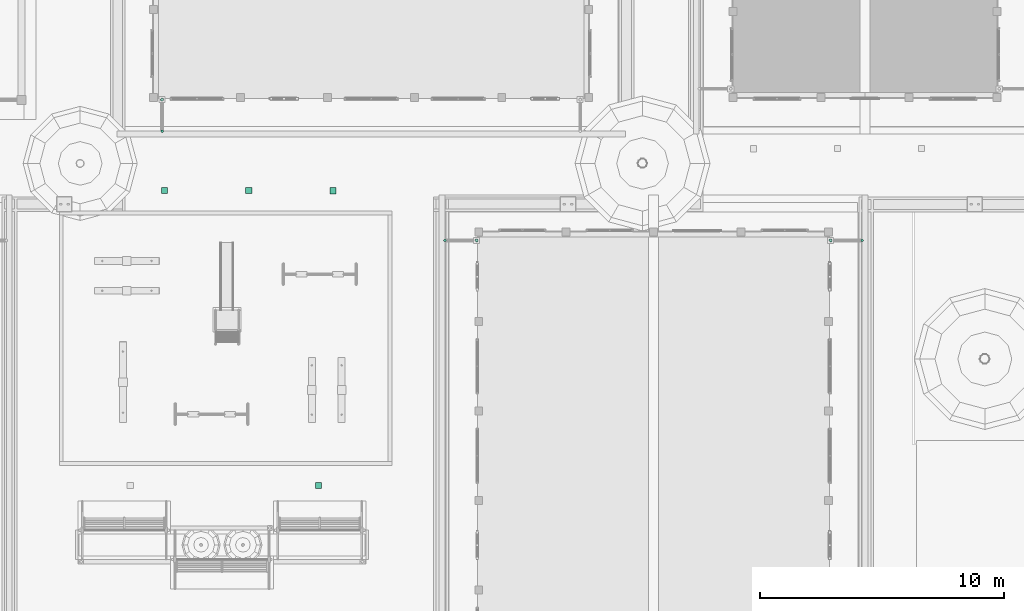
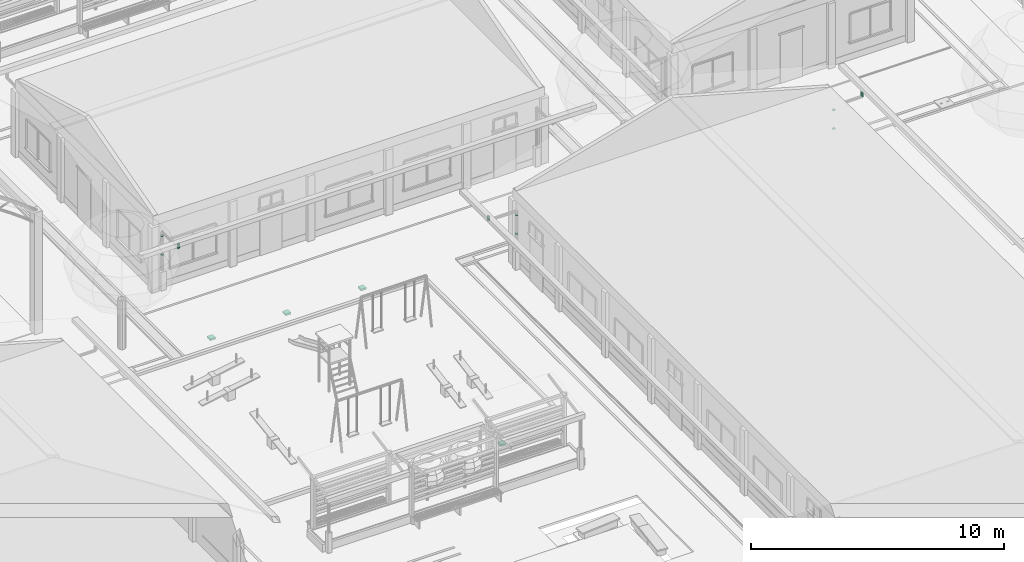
# One storey, part 126 of 177: 9 pipe segments, 4 waste terminals.
"""IFC4 building model written with IfcOpenShell, lengths in metres."""

from ifc_helpers import new_model, si_unit, origin, origin_with_axes, place, context, subcontext, project, spatial, triangles, element, save


model = new_model("IFC4")

# Units and contexts
model_context = context("Model", 3, precision=1e-05, world=origin_with_axes())
body_context = subcontext(model_context, "Body", "Model", "MODEL_VIEW")
ifc_project = project(units=[si_unit("LENGTHUNIT", "METRE"), si_unit("AREAUNIT", "SQUARE_METRE"), si_unit("VOLUMEUNIT", "CUBIC_METRE"), si_unit("PLANEANGLEUNIT", "RADIAN")], contexts=[model_context])

# Site, building, storey
site_placement = place(None, origin_with_axes())
site = spatial("IfcSite", under=ifc_project, at=site_placement, Name="Predio Los Mangos - Morales, San Martín", CompositionType="ELEMENT")
building_placement = place(site_placement, origin())
building = spatial("IfcBuilding", under=site, at=building_placement, Name="Hogar de Refugio Temporal", CompositionType="ELEMENT")
storey_placement = place(building_placement, origin())
storey = spatial("IfcBuildingStorey", under=building, at=storey_placement, Name="NIVEL 1 (NPT +0.00)", CompositionType="ELEMENT", Elevation=0.0)

# Pipe segments
pipe_segment_1_placement = place(storey_placement, origin())
element("IfcPipeSegment", 1, at=pipe_segment_1_placement, inside=storey, Name="montante_boquilla", ObjectType="Montante PVC 4\"", PredefinedType="RIGIDSEGMENT", context=body_context, shape_type="Tessellation", body=[
    triangles([(43.92, 86.905, 3.13), (43.92, 86.905, 2.91), (43.8925, 86.8976, 3.13), (43.8925, 86.8976, 2.91), (43.8724, 86.8775, 3.13), (43.8724, 86.8775, 2.91), (43.865, 86.85, 3.13), (43.865, 86.85, 2.91), (43.8724, 86.8225, 3.13), (43.8724, 86.8225, 2.91), (43.8925, 86.8024, 3.13), (43.8925, 86.8024, 2.91), (43.92, 86.795, 3.13), (43.92, 86.795, 2.91), (43.9475, 86.8024, 3.13), (43.9475, 86.8024, 2.91), (43.9676, 86.8225, 3.13), (43.9676, 86.8225, 2.91), (43.975, 86.85, 3.13), (43.975, 86.85, 2.91), (43.9676, 86.8775, 3.13), (43.9676, 86.8775, 2.91), (43.9475, 86.8976, 3.13), (43.9475, 86.8976, 2.91)], [[1, 2, 4], [1, 4, 3], [3, 4, 6], [3, 6, 5], [5, 6, 8], [5, 8, 7], [7, 8, 10], [7, 10, 9], [9, 10, 12], [9, 12, 11], [11, 12, 14], [11, 14, 13], [13, 14, 16], [13, 16, 15], [15, 16, 18], [15, 18, 17], [17, 18, 20], [17, 20, 19], [19, 20, 22], [19, 22, 21], [6, 4, 2], [2, 24, 22], [22, 20, 18], [18, 16, 14], [14, 12, 10], [10, 8, 6], [6, 2, 22], [22, 18, 14], [14, 10, 6], [22, 14, 6], [21, 22, 24], [21, 24, 23], [23, 24, 2], [23, 2, 1], [23, 1, 3], [3, 5, 7], [7, 9, 11], [11, 13, 15], [15, 17, 19], [19, 21, 23], [23, 3, 7], [7, 11, 15], [15, 19, 23], [7, 15, 23]]),
])
pipe_segment_2_placement = place(storey_placement, origin())
element("IfcPipeSegment", 2, at=pipe_segment_2_placement, inside=storey, Name="montante_abrazadera", ObjectType="Montante PVC 4\"", PredefinedType="RIGIDSEGMENT", context=body_context, shape_type="Tessellation", body=[
    triangles([(45.21, 86.788, 1.8), (45.21, 86.788, 1.84), (45.179, 86.7963, 1.8), (45.179, 86.7963, 1.84), (45.1563, 86.819, 1.8), (45.1563, 86.819, 1.84), (45.148, 86.85, 1.8), (45.148, 86.85, 1.84), (45.1563, 86.881, 1.8), (45.1563, 86.881, 1.84), (45.179, 86.9037, 1.8), (45.179, 86.9037, 1.84), (45.21, 86.912, 1.8), (45.21, 86.912, 1.84), (45.241, 86.9037, 1.8), (45.241, 86.9037, 1.84), (45.2637, 86.881, 1.8), (45.2637, 86.881, 1.84), (45.272, 86.85, 1.8), (45.272, 86.85, 1.84), (45.2637, 86.819, 1.8), (45.2637, 86.819, 1.84), (45.241, 86.7963, 1.8), (45.241, 86.7963, 1.84)], [[1, 2, 4], [1, 4, 3], [3, 4, 6], [3, 6, 5], [5, 6, 8], [5, 8, 7], [7, 8, 10], [7, 10, 9], [9, 10, 12], [9, 12, 11], [11, 12, 14], [11, 14, 13], [13, 14, 16], [13, 16, 15], [15, 16, 18], [15, 18, 17], [17, 18, 20], [17, 20, 19], [19, 20, 22], [19, 22, 21], [6, 4, 2], [2, 24, 22], [22, 20, 18], [18, 16, 14], [14, 12, 10], [10, 8, 6], [6, 2, 22], [22, 18, 14], [14, 10, 6], [22, 14, 6], [21, 22, 24], [21, 24, 23], [23, 24, 2], [23, 2, 1], [23, 1, 3], [3, 5, 7], [7, 9, 11], [11, 13, 15], [15, 17, 19], [19, 21, 23], [23, 3, 7], [7, 11, 15], [15, 19, 23], [7, 15, 23]]),
])
pipe_segment_3_placement = place(storey_placement, origin())
element("IfcPipeSegment", 3, at=pipe_segment_3_placement, inside=storey, Name="montante_abrazadera", ObjectType="Montante PVC 4\"", PredefinedType="RIGIDSEGMENT", context=body_context, shape_type="Tessellation", body=[
    triangles([(45.21, 86.788, 2.7), (45.21, 86.788, 2.74), (45.179, 86.7963, 2.7), (45.179, 86.7963, 2.74), (45.1563, 86.819, 2.7), (45.1563, 86.819, 2.74), (45.148, 86.85, 2.7), (45.148, 86.85, 2.74), (45.1563, 86.881, 2.7), (45.1563, 86.881, 2.74), (45.179, 86.9037, 2.7), (45.179, 86.9037, 2.74), (45.21, 86.912, 2.7), (45.21, 86.912, 2.74), (45.241, 86.9037, 2.7), (45.241, 86.9037, 2.74), (45.2637, 86.881, 2.7), (45.2637, 86.881, 2.74), (45.272, 86.85, 2.7), (45.272, 86.85, 2.74), (45.2637, 86.819, 2.7), (45.2637, 86.819, 2.74), (45.241, 86.7963, 2.7), (45.241, 86.7963, 2.74)], [[1, 2, 4], [1, 4, 3], [3, 4, 6], [3, 6, 5], [5, 6, 8], [5, 8, 7], [7, 8, 10], [7, 10, 9], [9, 10, 12], [9, 12, 11], [11, 12, 14], [11, 14, 13], [13, 14, 16], [13, 16, 15], [15, 16, 18], [15, 18, 17], [17, 18, 20], [17, 20, 19], [19, 20, 22], [19, 22, 21], [6, 4, 2], [2, 24, 22], [22, 20, 18], [18, 16, 14], [14, 12, 10], [10, 8, 6], [6, 2, 22], [22, 18, 14], [14, 10, 6], [22, 14, 6], [21, 22, 24], [21, 24, 23], [23, 24, 2], [23, 2, 1], [23, 1, 3], [3, 5, 7], [7, 9, 11], [11, 13, 15], [15, 17, 19], [19, 21, 23], [23, 3, 7], [7, 11, 15], [15, 19, 23], [7, 15, 23]]),
])
pipe_segment_4_placement = place(storey_placement, origin())
element("IfcPipeSegment", 4, at=pipe_segment_4_placement, inside=storey, Name="montante_boquilla", ObjectType="Montante PVC 4\"", PredefinedType="RIGIDSEGMENT", context=body_context, shape_type="Tessellation", body=[
    triangles([(60.98, 86.905, 3.13), (60.98, 86.905, 2.91), (60.9525, 86.8976, 3.13), (60.9525, 86.8976, 2.91), (60.9324, 86.8775, 3.13), (60.9324, 86.8775, 2.91), (60.925, 86.85, 3.13), (60.925, 86.85, 2.91), (60.9324, 86.8225, 3.13), (60.9324, 86.8225, 2.91), (60.9525, 86.8024, 3.13), (60.9525, 86.8024, 2.91), (60.98, 86.795, 3.13), (60.98, 86.795, 2.91), (61.0075, 86.8024, 3.13), (61.0075, 86.8024, 2.91), (61.0276, 86.8225, 3.13), (61.0276, 86.8225, 2.91), (61.035, 86.85, 3.13), (61.035, 86.85, 2.91), (61.0276, 86.8775, 3.13), (61.0276, 86.8775, 2.91), (61.0075, 86.8976, 3.13), (61.0075, 86.8976, 2.91)], [[1, 2, 4], [1, 4, 3], [3, 4, 6], [3, 6, 5], [5, 6, 8], [5, 8, 7], [7, 8, 10], [7, 10, 9], [9, 10, 12], [9, 12, 11], [11, 12, 14], [11, 14, 13], [13, 14, 16], [13, 16, 15], [15, 16, 18], [15, 18, 17], [17, 18, 20], [17, 20, 19], [19, 20, 22], [19, 22, 21], [6, 4, 2], [2, 24, 22], [22, 20, 18], [18, 16, 14], [14, 12, 10], [10, 8, 6], [6, 2, 22], [22, 18, 14], [14, 10, 6], [22, 14, 6], [21, 22, 24], [21, 24, 23], [23, 24, 2], [23, 2, 1], [23, 1, 3], [3, 5, 7], [7, 9, 11], [11, 13, 15], [15, 17, 19], [19, 21, 23], [23, 3, 7], [7, 11, 15], [15, 19, 23], [7, 15, 23]]),
])
pipe_segment_5_placement = place(storey_placement, origin())
element("IfcPipeSegment", 5, at=pipe_segment_5_placement, inside=storey, Name="montante_abrazadera", ObjectType="Montante PVC 4\"", PredefinedType="RIGIDSEGMENT", context=body_context, shape_type="Tessellation", body=[
    triangles([(59.69, 86.788, 1.8), (59.69, 86.788, 1.84), (59.659, 86.7963, 1.8), (59.659, 86.7963, 1.84), (59.6363, 86.819, 1.8), (59.6363, 86.819, 1.84), (59.628, 86.85, 1.8), (59.628, 86.85, 1.84), (59.6363, 86.881, 1.8), (59.6363, 86.881, 1.84), (59.659, 86.9037, 1.8), (59.659, 86.9037, 1.84), (59.69, 86.912, 1.8), (59.69, 86.912, 1.84), (59.721, 86.9037, 1.8), (59.721, 86.9037, 1.84), (59.7437, 86.881, 1.8), (59.7437, 86.881, 1.84), (59.752, 86.85, 1.8), (59.752, 86.85, 1.84), (59.7437, 86.819, 1.8), (59.7437, 86.819, 1.84), (59.721, 86.7963, 1.8), (59.721, 86.7963, 1.84)], [[1, 2, 4], [1, 4, 3], [3, 4, 6], [3, 6, 5], [5, 6, 8], [5, 8, 7], [7, 8, 10], [7, 10, 9], [9, 10, 12], [9, 12, 11], [11, 12, 14], [11, 14, 13], [13, 14, 16], [13, 16, 15], [15, 16, 18], [15, 18, 17], [17, 18, 20], [17, 20, 19], [19, 20, 22], [19, 22, 21], [6, 4, 2], [2, 24, 22], [22, 20, 18], [18, 16, 14], [14, 12, 10], [10, 8, 6], [6, 2, 22], [22, 18, 14], [14, 10, 6], [22, 14, 6], [21, 22, 24], [21, 24, 23], [23, 24, 2], [23, 2, 1], [23, 1, 3], [3, 5, 7], [7, 9, 11], [11, 13, 15], [15, 17, 19], [19, 21, 23], [23, 3, 7], [7, 11, 15], [15, 19, 23], [7, 15, 23]]),
])
pipe_segment_6_placement = place(storey_placement, origin())
element("IfcPipeSegment", 6, at=pipe_segment_6_placement, inside=storey, Name="montante_abrazadera", ObjectType="Montante PVC 4\"", PredefinedType="RIGIDSEGMENT", context=body_context, shape_type="Tessellation", body=[
    triangles([(59.69, 86.788, 2.7), (59.69, 86.788, 2.74), (59.659, 86.7963, 2.7), (59.659, 86.7963, 2.74), (59.6363, 86.819, 2.7), (59.6363, 86.819, 2.74), (59.628, 86.85, 2.7), (59.628, 86.85, 2.74), (59.6363, 86.881, 2.7), (59.6363, 86.881, 2.74), (59.659, 86.9037, 2.7), (59.659, 86.9037, 2.74), (59.69, 86.912, 2.7), (59.69, 86.912, 2.74), (59.721, 86.9037, 2.7), (59.721, 86.9037, 2.74), (59.7437, 86.881, 2.7), (59.7437, 86.881, 2.74), (59.752, 86.85, 2.7), (59.752, 86.85, 2.74), (59.7437, 86.819, 2.7), (59.7437, 86.819, 2.74), (59.721, 86.7963, 2.7), (59.721, 86.7963, 2.74)], [[1, 2, 4], [1, 4, 3], [3, 4, 6], [3, 6, 5], [5, 6, 8], [5, 8, 7], [7, 8, 10], [7, 10, 9], [9, 10, 12], [9, 12, 11], [11, 12, 14], [11, 14, 13], [13, 14, 16], [13, 16, 15], [15, 16, 18], [15, 18, 17], [17, 18, 20], [17, 20, 19], [19, 20, 22], [19, 22, 21], [6, 4, 2], [2, 24, 22], [22, 20, 18], [18, 16, 14], [14, 12, 10], [10, 8, 6], [6, 2, 22], [22, 18, 14], [14, 10, 6], [22, 14, 6], [21, 22, 24], [21, 24, 23], [23, 24, 2], [23, 2, 1], [23, 1, 3], [3, 5, 7], [7, 9, 11], [11, 13, 15], [15, 17, 19], [19, 21, 23], [23, 3, 7], [7, 11, 15], [15, 19, 23], [7, 15, 23]]),
])
pipe_segment_7_placement = place(storey_placement, origin())
element("IfcPipeSegment", 7, at=pipe_segment_7_placement, inside=storey, Name="montante_boquilla", ObjectType="Montante PVC 4\"", PredefinedType="RIGIDSEGMENT", context=body_context, shape_type="Tessellation", body=[
    triangles([(32.35, 91.375, 3.13), (32.35, 91.375, 2.91), (32.3225, 91.3676, 3.13), (32.3225, 91.3676, 2.91), (32.3024, 91.3475, 3.13), (32.3024, 91.3475, 2.91), (32.295, 91.32, 3.13), (32.295, 91.32, 2.91), (32.3024, 91.2925, 3.13), (32.3024, 91.2925, 2.91), (32.3225, 91.2724, 3.13), (32.3225, 91.2724, 2.91), (32.35, 91.265, 3.13), (32.35, 91.265, 2.91), (32.3775, 91.2724, 3.13), (32.3775, 91.2724, 2.91), (32.3976, 91.2925, 3.13), (32.3976, 91.2925, 2.91), (32.405, 91.32, 3.13), (32.405, 91.32, 2.91), (32.3976, 91.3475, 3.13), (32.3976, 91.3475, 2.91), (32.3775, 91.3676, 3.13), (32.3775, 91.3676, 2.91)], [[1, 2, 4], [1, 4, 3], [3, 4, 6], [3, 6, 5], [5, 6, 8], [5, 8, 7], [7, 8, 10], [7, 10, 9], [9, 10, 12], [9, 12, 11], [11, 12, 14], [11, 14, 13], [13, 14, 16], [13, 16, 15], [15, 16, 18], [15, 18, 17], [17, 18, 20], [17, 20, 19], [19, 20, 22], [19, 22, 21], [6, 4, 2], [2, 24, 22], [22, 20, 18], [18, 16, 14], [14, 12, 10], [10, 8, 6], [6, 2, 22], [22, 18, 14], [14, 10, 6], [22, 14, 6], [21, 22, 24], [21, 24, 23], [23, 24, 2], [23, 2, 1], [23, 1, 3], [3, 5, 7], [7, 9, 11], [11, 13, 15], [15, 17, 19], [19, 21, 23], [23, 3, 7], [7, 11, 15], [15, 19, 23], [7, 15, 23]]),
])
pipe_segment_8_placement = place(storey_placement, origin())
element("IfcPipeSegment", 8, at=pipe_segment_8_placement, inside=storey, Name="montante_abrazadera", ObjectType="Montante PVC 4\"", PredefinedType="RIGIDSEGMENT", context=body_context, shape_type="Tessellation", body=[
    triangles([(32.35, 92.548, 1.8), (32.35, 92.548, 1.84), (32.319, 92.5563, 1.8), (32.319, 92.5563, 1.84), (32.2963, 92.579, 1.8), (32.2963, 92.579, 1.84), (32.288, 92.61, 1.8), (32.288, 92.61, 1.84), (32.2963, 92.641, 1.8), (32.2963, 92.641, 1.84), (32.319, 92.6637, 1.8), (32.319, 92.6637, 1.84), (32.35, 92.672, 1.8), (32.35, 92.672, 1.84), (32.381, 92.6637, 1.8), (32.381, 92.6637, 1.84), (32.4037, 92.641, 1.8), (32.4037, 92.641, 1.84), (32.412, 92.61, 1.8), (32.412, 92.61, 1.84), (32.4037, 92.579, 1.8), (32.4037, 92.579, 1.84), (32.381, 92.5563, 1.8), (32.381, 92.5563, 1.84)], [[1, 2, 4], [1, 4, 3], [3, 4, 6], [3, 6, 5], [5, 6, 8], [5, 8, 7], [7, 8, 10], [7, 10, 9], [9, 10, 12], [9, 12, 11], [11, 12, 14], [11, 14, 13], [13, 14, 16], [13, 16, 15], [15, 16, 18], [15, 18, 17], [17, 18, 20], [17, 20, 19], [19, 20, 22], [19, 22, 21], [6, 4, 2], [2, 24, 22], [22, 20, 18], [18, 16, 14], [14, 12, 10], [10, 8, 6], [6, 2, 22], [22, 18, 14], [14, 10, 6], [22, 14, 6], [21, 22, 24], [21, 24, 23], [23, 24, 2], [23, 2, 1], [23, 1, 3], [3, 5, 7], [7, 9, 11], [11, 13, 15], [15, 17, 19], [19, 21, 23], [23, 3, 7], [7, 11, 15], [15, 19, 23], [7, 15, 23]]),
])
pipe_segment_9_placement = place(storey_placement, origin())
element("IfcPipeSegment", 9, at=pipe_segment_9_placement, inside=storey, Name="montante_abrazadera", ObjectType="Montante PVC 4\"", PredefinedType="RIGIDSEGMENT", context=body_context, shape_type="Tessellation", body=[
    triangles([(32.35, 92.548, 2.7), (32.35, 92.548, 2.74), (32.319, 92.5563, 2.7), (32.319, 92.5563, 2.74), (32.2963, 92.579, 2.7), (32.2963, 92.579, 2.74), (32.288, 92.61, 2.7), (32.288, 92.61, 2.74), (32.2963, 92.641, 2.7), (32.2963, 92.641, 2.74), (32.319, 92.6637, 2.7), (32.319, 92.6637, 2.74), (32.35, 92.672, 2.7), (32.35, 92.672, 2.74), (32.381, 92.6637, 2.7), (32.381, 92.6637, 2.74), (32.4037, 92.641, 2.7), (32.4037, 92.641, 2.74), (32.412, 92.61, 2.7), (32.412, 92.61, 2.74), (32.4037, 92.579, 2.7), (32.4037, 92.579, 2.74), (32.381, 92.5563, 2.7), (32.381, 92.5563, 2.74)], [[1, 2, 4], [1, 4, 3], [3, 4, 6], [3, 6, 5], [5, 6, 8], [5, 8, 7], [7, 8, 10], [7, 10, 9], [9, 10, 12], [9, 12, 11], [11, 12, 14], [11, 14, 13], [13, 14, 16], [13, 16, 15], [15, 16, 18], [15, 18, 17], [17, 18, 20], [17, 20, 19], [19, 20, 22], [19, 22, 21], [6, 4, 2], [2, 24, 22], [22, 20, 18], [18, 16, 14], [14, 12, 10], [10, 8, 6], [6, 2, 22], [22, 18, 14], [14, 10, 6], [22, 14, 6], [21, 22, 24], [21, 24, 23], [23, 24, 2], [23, 2, 1], [23, 1, 3], [3, 5, 7], [7, 9, 11], [11, 13, 15], [15, 17, 19], [19, 21, 23], [23, 3, 7], [7, 11, 15], [15, 19, 23], [7, 15, 23]]),
])

# Waste terminals
waste_terminal_1_placement = place(storey_placement, origin())
element("IfcWasteTerminal", 10, at=waste_terminal_1_placement, inside=storey, Name="sumidero_fondo", ObjectType="Sumidero con rejilla", PredefinedType="GULLYTRAP", context=body_context, shape_type="Tessellation", body=[
    triangles([(38.622, 76.702, -0.02), (38.872, 76.702, -0.02), (38.872, 76.952, -0.02), (38.622, 76.952, -0.02), (38.622, 76.702, 0.064), (38.872, 76.702, 0.064), (38.872, 76.952, 0.064), (38.622, 76.952, 0.064)], [[1, 4, 3], [1, 3, 2], [5, 6, 7], [5, 7, 8], [1, 2, 6], [1, 6, 5], [2, 3, 7], [2, 7, 6], [3, 4, 8], [3, 8, 7], [4, 1, 5], [4, 5, 8]]),
])
waste_terminal_2_placement = place(storey_placement, origin())
element("IfcWasteTerminal", 11, at=waste_terminal_2_placement, inside=storey, Name="sumidero_fondo", ObjectType="Sumidero con rejilla", PredefinedType="GULLYTRAP", context=body_context, shape_type="Tessellation", body=[
    triangles([(39.21, 88.757, -0.02), (39.46, 88.757, -0.02), (39.46, 89.007, -0.02), (39.21, 89.007, -0.02), (39.21, 88.757, 0.064), (39.46, 88.757, 0.064), (39.46, 89.007, 0.064), (39.21, 89.007, 0.064)], [[1, 4, 3], [1, 3, 2], [5, 6, 7], [5, 7, 8], [1, 2, 6], [1, 6, 5], [2, 3, 7], [2, 7, 6], [3, 4, 8], [3, 8, 7], [4, 1, 5], [4, 5, 8]]),
])
waste_terminal_3_placement = place(storey_placement, origin())
element("IfcWasteTerminal", 12, at=waste_terminal_3_placement, inside=storey, Name="sumidero_fondo", ObjectType="Sumidero con rejilla", PredefinedType="GULLYTRAP", context=body_context, shape_type="Tessellation", body=[
    triangles([(35.77, 88.767, -0.02), (36.02, 88.767, -0.02), (36.02, 89.017, -0.02), (35.77, 89.017, -0.02), (35.77, 88.767, 0.064), (36.02, 88.767, 0.064), (36.02, 89.017, 0.064), (35.77, 89.017, 0.064)], [[1, 4, 3], [1, 3, 2], [5, 6, 7], [5, 7, 8], [1, 2, 6], [1, 6, 5], [2, 3, 7], [2, 7, 6], [3, 4, 8], [3, 8, 7], [4, 1, 5], [4, 5, 8]]),
])
waste_terminal_4_placement = place(storey_placement, origin())
element("IfcWasteTerminal", 13, at=waste_terminal_4_placement, inside=storey, Name="sumidero_fondo", ObjectType="Sumidero con rejilla", PredefinedType="GULLYTRAP", context=body_context, shape_type="Tessellation", body=[
    triangles([(32.33, 88.767, -0.02), (32.58, 88.767, -0.02), (32.58, 89.017, -0.02), (32.33, 89.017, -0.02), (32.33, 88.767, 0.064), (32.58, 88.767, 0.064), (32.58, 89.017, 0.064), (32.33, 89.017, 0.064)], [[1, 4, 3], [1, 3, 2], [5, 6, 7], [5, 7, 8], [1, 2, 6], [1, 6, 5], [2, 3, 7], [2, 7, 6], [3, 4, 8], [3, 8, 7], [4, 1, 5], [4, 5, 8]]),
])

save(model, "model.ifc")
